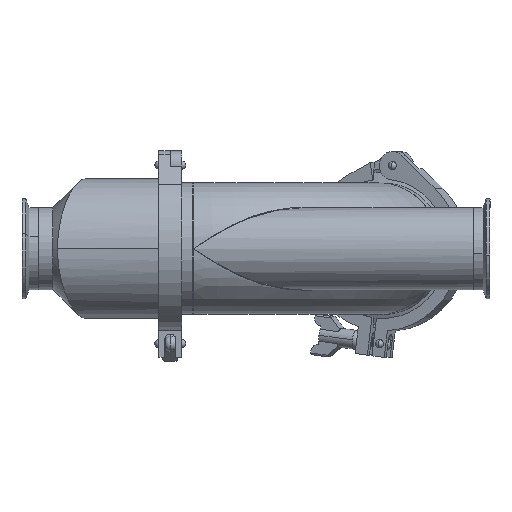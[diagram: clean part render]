
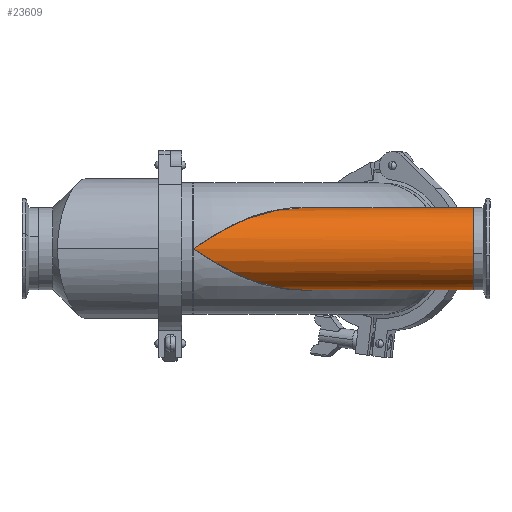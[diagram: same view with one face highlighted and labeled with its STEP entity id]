
A CAD part, front view. The second image highlights one B-rep face of the part: STEP entity #23609.
In plain terms, the highlighted cylindrical face has radius 31.75 mm (diameter 63.5 mm), a partial arc.
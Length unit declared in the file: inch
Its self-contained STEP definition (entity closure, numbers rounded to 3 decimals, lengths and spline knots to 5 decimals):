
#960 = ORIENTED_EDGE ( 'NONE', *, *, #21753, .T. ) ;
#1030 = CARTESIAN_POINT ( 'NONE',  ( 6.22795, 4.06665, 9.77938 ) ) ;
#1111 = CARTESIAN_POINT ( 'NONE',  ( 4.20242, 3.4334, 8.80087 ) ) ;
#1144 = CARTESIAN_POINT ( 'NONE',  ( 4.0619, 3.42875, 8.66617 ) ) ;
#1226 = CARTESIAN_POINT ( 'NONE',  ( 5.25701, 3.65845, 7.96595 ) ) ;
#1322 = CARTESIAN_POINT ( 'NONE',  ( 7.48142, 4.67856, 7.43868 ) ) ;
#2752 = CARTESIAN_POINT ( 'NONE',  ( 12.5567, 4.67856, 9.93868 ) ) ;
#3181 = CARTESIAN_POINT ( 'NONE',  ( 5.86603, 3.90031, 9.67027 ) ) ;
#3268 = CARTESIAN_POINT ( 'NONE',  ( 4.1147, 3.42977, 8.74493 ) ) ;
#3303 = CARTESIAN_POINT ( 'NONE',  ( 4.14964, 3.43068, 8.6101 ) ) ;
#3396 = CARTESIAN_POINT ( 'NONE',  ( 5.57763, 3.77808, 7.81784 ) ) ;
#4550 = DIRECTION ( 'NONE',  ( 1., 0., 0. ) ) ;
#5106 = DIRECTION ( 'NONE',  ( -1., 0., 0. ) ) ;
#5354 = CARTESIAN_POINT ( 'NONE',  ( 5.43742, 3.72247, 9.49841 ) ) ;
#5438 = CARTESIAN_POINT ( 'NONE',  ( 4.06195, 3.42875, 8.71122 ) ) ;
#5480 = CARTESIAN_POINT ( 'NONE',  ( 4.30704, 3.44057, 8.51009 ) ) ;
#5567 = CARTESIAN_POINT ( 'NONE',  ( 6.00848, 3.96451, 7.65964 ) ) ;
#5862 = B_SPLINE_CURVE_WITH_KNOTS ( 'NONE', 3,
 ( #11896, #18195, #14062, #1144, #16221, #3303, #18372, #5480, #20563, #7636, #22732, #9820, #24915, #11988, #27112, #14160, #1226, #16318, #3396, #18465, #5567, #20659, #7738, #22822, #9912, #25004, #12075, #27207, #14253, #1322 ),
 .UNSPECIFIED., .F., .F.,
 ( 4, 2, 1, 1, 2, 2, 2, 2, 2, 2, 2, 2, 2, 2, 2, 4 ),
 ( -0.18513, -0.18433, -0.18352, -0.18192, -0.1787, -0.17226, -0.15939, -0.15295, -0.14973, -0.14651, -0.13364, -0.12077, -0.11433, -0.10789, -0.09502, -0.08215 ),
 .UNSPECIFIED. ) ;
#6484 = LINE ( 'NONE', #17843, #11544 ) ;
#7417 = CARTESIAN_POINT ( 'NONE',  ( 6.89111, 4.38731, 9.90651 ) ) ;
#7422 = EDGE_CURVE ( 'NONE', #11910, #9504, #13429, .T. ) ;
#7511 = CARTESIAN_POINT ( 'NONE',  ( 5.15255, 3.62284, 9.35939 ) ) ;
#7600 = CARTESIAN_POINT ( 'NONE',  ( 4.03563, 3.42856, 8.69439 ) ) ;
#7636 = CARTESIAN_POINT ( 'NONE',  ( 4.58621, 3.47598, 8.3363 ) ) ;
#7738 = CARTESIAN_POINT ( 'NONE',  ( 6.30014, 4.10079, 7.57953 ) ) ;
#7797 = VERTEX_POINT ( 'NONE', #2752 ) ;
#8613 = AXIS2_PLACEMENT_3D ( 'NONE', #21831, #4550, #8907 ) ;
#8907 = DIRECTION ( 'NONE',  ( 0., 0., -1. ) ) ;
#9504 = VERTEX_POINT ( 'NONE', #15789 ) ;
#9604 = CARTESIAN_POINT ( 'NONE',  ( 6.55873, 4.225, 9.85364 ) ) ;
#9694 = CARTESIAN_POINT ( 'NONE',  ( 4.93896, 3.55855, 9.24545 ) ) ;
#9820 = CARTESIAN_POINT ( 'NONE',  ( 4.93702, 3.55802, 8.13297 ) ) ;
#9912 = CARTESIAN_POINT ( 'NONE',  ( 6.52111, 4.20672, 7.53052 ) ) ;
#10092 = ORIENTED_EDGE ( 'NONE', *, *, #26421, .T. ) ;
#10748 = EDGE_CURVE ( 'NONE', #14466, #7797, #26488, .T. ) ;
#11544 = VECTOR ( 'NONE', #19737, 39.37008 ) ;
#11588 = CARTESIAN_POINT ( 'NONE',  ( 7.48142, 4.67856, 9.93868 ) ) ;
#11681 = CARTESIAN_POINT ( 'NONE',  ( 7.18624, 4.53273, 9.93233 ) ) ;
#11773 = CARTESIAN_POINT ( 'NONE',  ( 6.44789, 4.17147, 9.83136 ) ) ;
#11862 = CARTESIAN_POINT ( 'NONE',  ( 4.58722, 3.47615, 9.04167 ) ) ;
#11896 = CARTESIAN_POINT ( 'NONE',  ( 4.0267, 3.42856, 8.68868 ) ) ;
#11910 = VERTEX_POINT ( 'NONE', #11588 ) ;
#11988 = CARTESIAN_POINT ( 'NONE',  ( 5.11439, 3.61102, 8.03803 ) ) ;
#12075 = CARTESIAN_POINT ( 'NONE',  ( 6.88957, 4.38655, 7.47101 ) ) ;
#13173 = FACE_OUTER_BOUND ( 'NONE', #23983, .T. ) ;
#13262 = VECTOR ( 'NONE', #14540, 39.37008 ) ;
#13429 = B_SPLINE_CURVE_WITH_KNOTS ( 'NONE', 3,
 ( #20347, #26792, #11681, #7417, #22522, #9604, #24702, #11773, #26890, #13932, #1030, #16088, #3181, #18251, #5354, #20436, #7511, #22615, #9694, #24788, #11862, #26981, #14032, #1111, #16187, #3268, #18343, #5438, #20527, #7600, #22702 ),
 .UNSPECIFIED., .F., .F.,
 ( 4, 2, 2, 2, 2, 2, 2, 2, 2, 2, 2, 2, 2, 1, 2, 4 ),
 ( 0.08679, 0.09972, 0.11265, 0.11589, 0.11912, 0.12559, 0.13852, 0.15145, 0.15792, 0.16439, 0.17732, 0.18379, 0.18702, 0.18864, 0.18944, 0.19025 ),
 .UNSPECIFIED. ) ;
#13932 = CARTESIAN_POINT ( 'NONE',  ( 6.30096, 4.10118, 9.79802 ) ) ;
#14032 = CARTESIAN_POINT ( 'NONE',  ( 4.3075, 3.44061, 8.86755 ) ) ;
#14062 = CARTESIAN_POINT ( 'NONE',  ( 4.04432, 3.42859, 8.67741 ) ) ;
#14160 = CARTESIAN_POINT ( 'NONE',  ( 5.22138, 3.64619, 7.98356 ) ) ;
#14253 = CARTESIAN_POINT ( 'NONE',  ( 7.33304, 4.60525, 7.43868 ) ) ;
#14466 = VERTEX_POINT ( 'NONE', #18086 ) ;
#14540 = DIRECTION ( 'NONE',  ( 1., 0., 0. ) ) ;
#15014 = VERTEX_POINT ( 'NONE', #19593 ) ;
#15789 = CARTESIAN_POINT ( 'NONE',  ( 4.0267, 3.42856, 8.68868 ) ) ;
#16088 = CARTESIAN_POINT ( 'NONE',  ( 6.00995, 3.96519, 9.71816 ) ) ;
#16187 = CARTESIAN_POINT ( 'NONE',  ( 4.16736, 3.43159, 8.77854 ) ) ;
#16221 = CARTESIAN_POINT ( 'NONE',  ( 4.08825, 3.42909, 8.64932 ) ) ;
#16318 = CARTESIAN_POINT ( 'NONE',  ( 5.43514, 3.7216, 7.87997 ) ) ;
#16595 = CARTESIAN_POINT ( 'NONE',  ( -19681.01267, 4.67856, 7.43868 ) ) ;
#17634 = ORIENTED_EDGE ( 'NONE', *, *, #7422, .T. ) ;
#17843 = CARTESIAN_POINT ( 'NONE',  ( -19681.01267, 4.67856, 9.93868 ) ) ;
#18025 = CARTESIAN_POINT ( 'NONE',  ( 12.5567, 4.67856, 8.68868 ) ) ;
#18086 = CARTESIAN_POINT ( 'NONE',  ( 12.5567, 4.67856, 7.43868 ) ) ;
#18195 = CARTESIAN_POINT ( 'NONE',  ( 4.03559, 3.42856, 8.68299 ) ) ;
#18200 = CYLINDRICAL_SURFACE ( 'NONE', #8613, 1.25 ) ;
#18251 = CARTESIAN_POINT ( 'NONE',  ( 5.57976, 3.77895, 9.5604 ) ) ;
#18343 = CARTESIAN_POINT ( 'NONE',  ( 4.08834, 3.42909, 8.72809 ) ) ;
#18372 = CARTESIAN_POINT ( 'NONE',  ( 4.20214, 3.43339, 8.57665 ) ) ;
#18465 = CARTESIAN_POINT ( 'NONE',  ( 5.8643, 3.89954, 7.70768 ) ) ;
#18965 = LINE ( 'NONE', #16595, #13262 ) ;
#19593 = CARTESIAN_POINT ( 'NONE',  ( 7.48142, 4.67856, 7.43868 ) ) ;
#19737 = DIRECTION ( 'NONE',  ( 1., 0., 0. ) ) ;
#20195 = DIRECTION ( 'NONE',  ( 0., 0., 1. ) ) ;
#20347 = CARTESIAN_POINT ( 'NONE',  ( 7.48142, 4.67856, 9.93868 ) ) ;
#20436 = CARTESIAN_POINT ( 'NONE',  ( 5.22381, 3.64664, 9.39541 ) ) ;
#20527 = CARTESIAN_POINT ( 'NONE',  ( 4.04435, 3.42859, 8.69997 ) ) ;
#20563 = CARTESIAN_POINT ( 'NONE',  ( 4.37683, 3.44773, 8.46615 ) ) ;
#20659 = CARTESIAN_POINT ( 'NONE',  ( 6.22696, 4.06619, 7.59823 ) ) ;
#21506 = EDGE_CURVE ( 'NONE', #11910, #7797, #6484, .T. ) ;
#21753 = EDGE_CURVE ( 'NONE', #9504, #15014, #5862, .T. ) ;
#21831 = CARTESIAN_POINT ( 'NONE',  ( -19681.01267, 4.67856, 8.68868 ) ) ;
#22522 = CARTESIAN_POINT ( 'NONE',  ( 6.74353, 4.31477, 9.88702 ) ) ;
#22615 = CARTESIAN_POINT ( 'NONE',  ( 5.00986, 3.57871, 9.28427 ) ) ;
#22702 = CARTESIAN_POINT ( 'NONE',  ( 4.0267, 3.42856, 8.68868 ) ) ;
#22732 = CARTESIAN_POINT ( 'NONE',  ( 4.72582, 3.50391, 8.25239 ) ) ;
#22822 = CARTESIAN_POINT ( 'NONE',  ( 6.44735, 4.17112, 7.54564 ) ) ;
#23609 = ADVANCED_FACE ( 'NONE', ( #13173 ), #18200, .T. ) ;
#23945 = AXIS2_PLACEMENT_3D ( 'NONE', #18025, #5106, #20195 ) ;
#23983 = EDGE_LOOP ( 'NONE', ( #25253, #17634, #960, #10092, #26486 ) ) ;
#24702 = CARTESIAN_POINT ( 'NONE',  ( 6.52171, 4.20707, 9.84651 ) ) ;
#24788 = CARTESIAN_POINT ( 'NONE',  ( 4.72718, 3.50419, 9.12577 ) ) ;
#24915 = CARTESIAN_POINT ( 'NONE',  ( 5.00771, 3.57809, 8.09424 ) ) ;
#25004 = CARTESIAN_POINT ( 'NONE',  ( 6.74215, 4.31409, 7.49055 ) ) ;
#25253 = ORIENTED_EDGE ( 'NONE', *, *, #21506, .F. ) ;
#26421 = EDGE_CURVE ( 'NONE', #15014, #14466, #18965, .T. ) ;
#26486 = ORIENTED_EDGE ( 'NONE', *, *, #10748, .T. ) ;
#26488 = CIRCLE ( 'NONE', #23945, 1.25 ) ;
#26792 = CARTESIAN_POINT ( 'NONE',  ( 7.3338, 4.60563, 9.93868 ) ) ;
#26890 = CARTESIAN_POINT ( 'NONE',  ( 6.41108, 4.15379, 9.82336 ) ) ;
#26981 = CARTESIAN_POINT ( 'NONE',  ( 4.37741, 3.44779, 8.91157 ) ) ;
#27112 = CARTESIAN_POINT ( 'NONE',  ( 5.15009, 3.62248, 8.01959 ) ) ;
#27207 = CARTESIAN_POINT ( 'NONE',  ( 7.18502, 4.53213, 7.44508 ) ) ;
